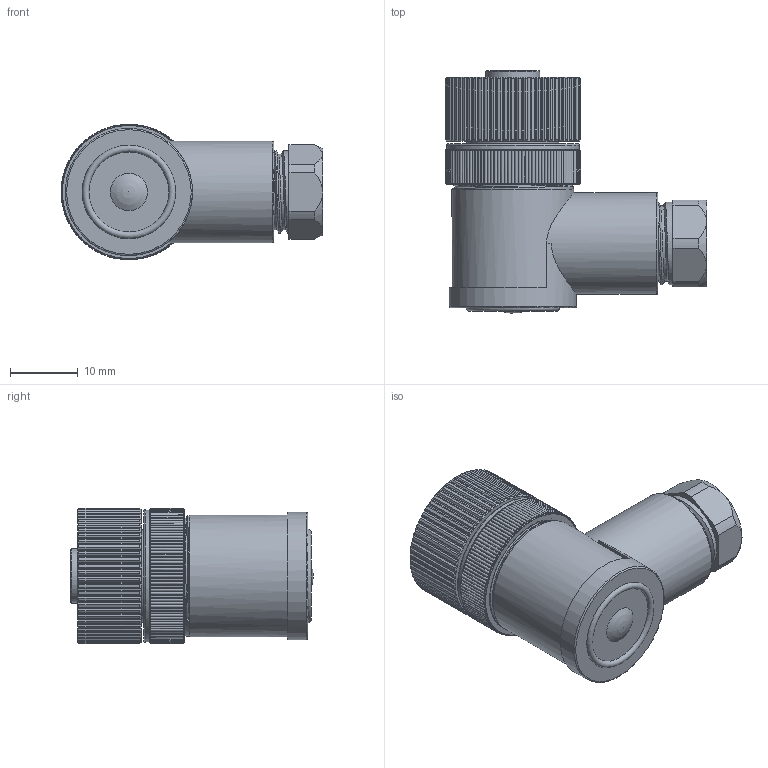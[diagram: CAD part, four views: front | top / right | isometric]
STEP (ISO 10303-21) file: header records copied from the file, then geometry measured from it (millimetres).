
FILE_DESCRIPTION(/* description */ (''),/* implementation_level */ '2;1');
FILE_NAME(/* name */ 'M12-5FR-PG7.stp',/* time_stamp */ '2024-08-14T10:50:26+08:00',/* author */ (''),/* organization */ (''),/* preprocessor_version */ 'ST-DEVELOPER v16.7',/* originating_system */ 'SIEMENS PLM Software NX 12.0',/* authorisation */ '');
FILE_SCHEMA (('AP203_CONFIGURATION_CONTROLLED_3D_DESIGN_OF_MECHANICAL_PARTS_AND_ASSEMBLIES_MIM_LF { 1 0 10303 403 2 1 2}'));
Length unit declared in the file: millimetre
Products named in the file (1): lyj2EFCE3066oen
Bounding box: 38.64 x 35.8 x 20 mm (x, y, z)
Volume: 8755.9 mm3; surface area: 11332.2 mm2
Topology: 1 solids, 11 shells, 1266 faces, 3097 edges, 1899 vertices
Faces by surface type: cylinder 409, cone 406, plane 386, torus 25, extrusion 25, bspline 13, sphere 2
Full cylindrical faces by diameter (mm): 1 x15, 1.2 x5, 1.3 x10, 1.4 x5, 1.6 x20, 2 x4, 6.2 x1, 7 x1, 8 x1, 8.6 x1, 9.2 x1, 10.2 x1, 10.5 x1, 10.7 x1, 11.1 x7, 11.199 x1, 11.4 x7, 13.6 x1, 13.8 x1, 14.3 x1, 14.4 x1, 14.7 x1, 15 x1, 15.8 x1, 16.7 x1, 18 x1, 18.8 x1, 19.6 x1
Entity records: 51228 total; most frequent: CARTESIAN_POINT 23035, DIRECTION 5820, ORIENTED_EDGE 5782, EDGE_CURVE 2891, AXIS2_PLACEMENT_3D 2371, VERTEX_POINT 1819, EDGE_LOOP 1444, ADVANCED_FACE 1251
